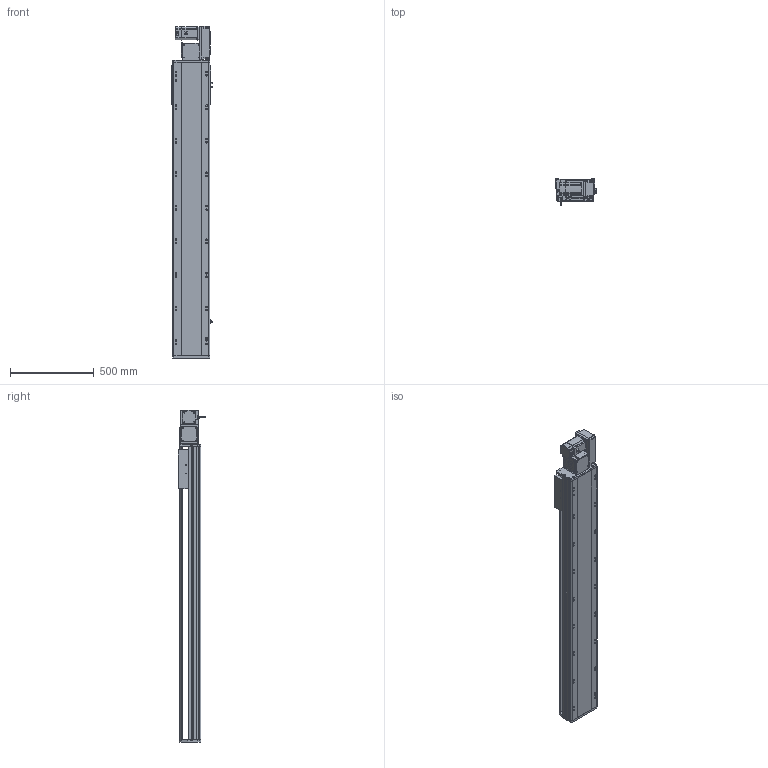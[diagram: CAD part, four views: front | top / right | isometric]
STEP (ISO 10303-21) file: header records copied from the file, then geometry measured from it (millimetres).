
FILE_DESCRIPTION (( 'STEP AP214' ), '1' );
FILE_NAME ('RTB22S-XX-1400-R-M75-C4.STEP', '2025-12-12T07:21:54', ( '' ), ( '' ), 'SwSTEP 2.0', 'SolidWorks 2018', '' );
FILE_SCHEMA (( 'AUTOMOTIVE_DESIGN' ));
Length unit declared in the file: millimetre
Products named in the file (14): RTB22S-GY-014--々湍釱^RTB22S-R-々湍釱蚾饜_RTB22S-XX-XX-R-M75-C4; RTB22S-GY-007奻裔^RTB22S-XX-XX-R-M75-C4; RTB22S-GY-001耜裔^RTB22S-XX-XX-R-M75-C4; RTB22S-L-011菁釱^RTB22S-XX-XX-R-M75-C4; RTB22S-R-々湍釱蚾饜^RTB22S-XX-XX-R-M75-C4; RTB22S-GY-017P^RTB22S-R-々湍釱蚾饜_RTB22S-XX-XX-R-M75-C4; RTB22S-GY-005P^RTB22S-R-々湍釱蚾饜_RTB22S-XX-XX-R-M75-C4; RTB22S-L-004賑釱^RTB22S-XX-XX-R-M75-C4; RTB22S-GY-008-M75--萇儂啣^RTB22S-R-々湍釱蚾饜_RTB22S-XX-XX-R-M75-C4; OMRON EE-SX672 传感器^RTB22S-XX-XX-R-M75-C4; RTB22S-XX-1400-R-M75-C4; RTB22S-GY-018P^RTB22S-R-々湍釱蚾饜_RTB22S-XX-XX-R-M75-C4; 750W萇儂^RTB22S-XX-XX-R-M75-C4; RTH22-GY-013外置感应片^RTB22S-XX-XX-R-M75-C4
Assembly tree (16 placements, depth 3):
  RTB22S-XX-1400-R-M75-C4
    RTB22S-L-011菁釱^RTB22S-XX-XX-R-M75-C4
    RTB22S-GY-001耜裔^RTB22S-XX-XX-R-M75-C4
    750W萇儂^RTB22S-XX-XX-R-M75-C4
    RTB22S-GY-007奻裔^RTB22S-XX-XX-R-M75-C4
    RTB22S-L-004賑釱^RTB22S-XX-XX-R-M75-C4
    RTH22-GY-013外置感应片^RTB22S-XX-XX-R-M75-C4
    OMRON EE-SX672 传感器^RTB22S-XX-XX-R-M75-C4  x3
    RTB22S-R-々湍釱蚾饜^RTB22S-XX-XX-R-M75-C4
      RTB22S-GY-014--々湍釱^RTB22S-R-々湍釱蚾饜_RTB22S-XX-XX-R-M75-C4
      RTB22S-GY-017P^RTB22S-R-々湍釱蚾饜_RTB22S-XX-XX-R-M75-C4  x2
      RTB22S-GY-005P^RTB22S-R-々湍釱蚾饜_RTB22S-XX-XX-R-M75-C4
      RTB22S-GY-008-M75--萇儂啣^RTB22S-R-々湍釱蚾饜_RTB22S-XX-XX-R-M75-C4
      RTB22S-GY-018P^RTB22S-R-々湍釱蚾饜_RTB22S-XX-XX-R-M75-C4
Bounding box: 238.5 x 162.7 x 1979 mm (x, y, z)
Volume: 25953039.1 mm3; surface area: 2681129.8 mm2
Topology: 15 solids, 15 shells, 2001 faces, 5436 edges, 3482 vertices
Faces by surface type: plane 917, cylinder 634, bspline 296, cone 142, sphere 8, torus 4
Entity records: 53426 total; most frequent: CARTESIAN_POINT 15320, ORIENTED_EDGE 7652, DIRECTION 7380, EDGE_CURVE 3826, AXIS2_PLACEMENT_3D 2610, VERTEX_POINT 2486, VECTOR 2160, LINE 2160
